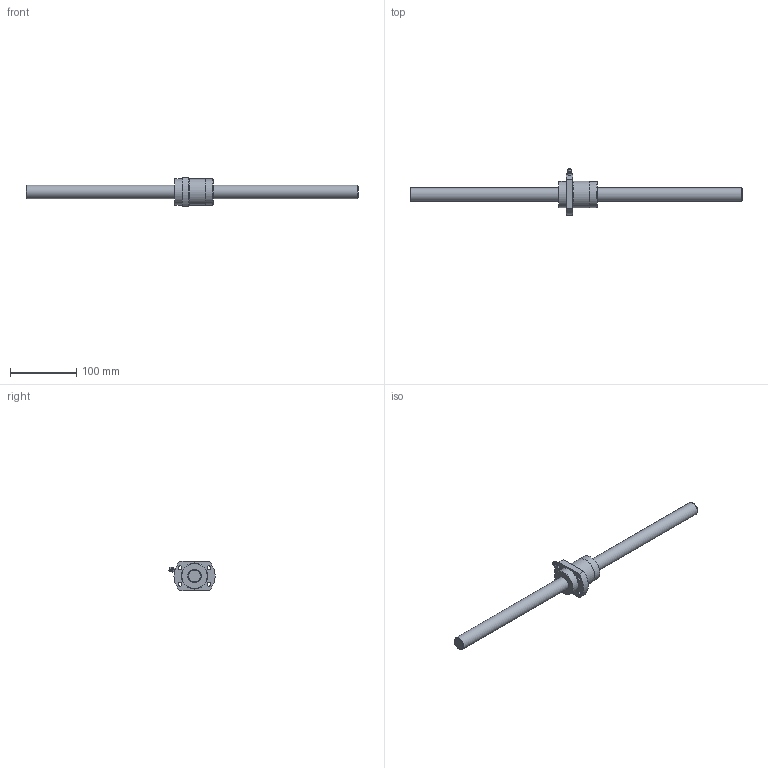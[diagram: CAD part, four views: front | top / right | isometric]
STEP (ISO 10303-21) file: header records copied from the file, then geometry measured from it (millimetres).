
FILE_DESCRIPTION((''),'2;1');
FILE_NAME('D:\製品 (図面)\カタログ用3D\ネジ関連\STEP形式\RBSW\RBSW2040-0500.stp','2010-06-02T14:46:57',('Tsuchiya'),(''),'Autodesk Inventor 10','Autodesk Inventor 10','');
FILE_SCHEMA(('AUTOMOTIVE_DESIGN { 1 0 10303 214 1 1 1 1 }'));
Length unit declared in the file: millimetre
Products named in the file (3): RBSW2040-0500; RBSW2040-05001; RBSW2040-05002
Assembly tree (2 placements, depth 2):
  RBSW2040-0500
    RBSW2040-05001
    RBSW2040-05002
Bounding box: 500 x 69.54 x 44 mm (x, y, z)
Volume: 221997.8 mm3; surface area: 48451.1 mm2
Topology: 3 solids, 3 shells, 35 faces, 75 edges, 48 vertices
Faces by surface type: plane 11, cylinder 8, cone 7, bspline 6, sphere 3
Full cylindrical faces by diameter (mm): 7 x1, 20 x2, 39.2 x2, 40 x1
Entity records: 1006 total; most frequent: CARTESIAN_POINT 297, DIRECTION 146, ORIENTED_EDGE 90, AXIS2_PLACEMENT_3D 68, EDGE_LOOP 68, EDGE_CURVE 45, VERTEX_POINT 39, CIRCLE 35
